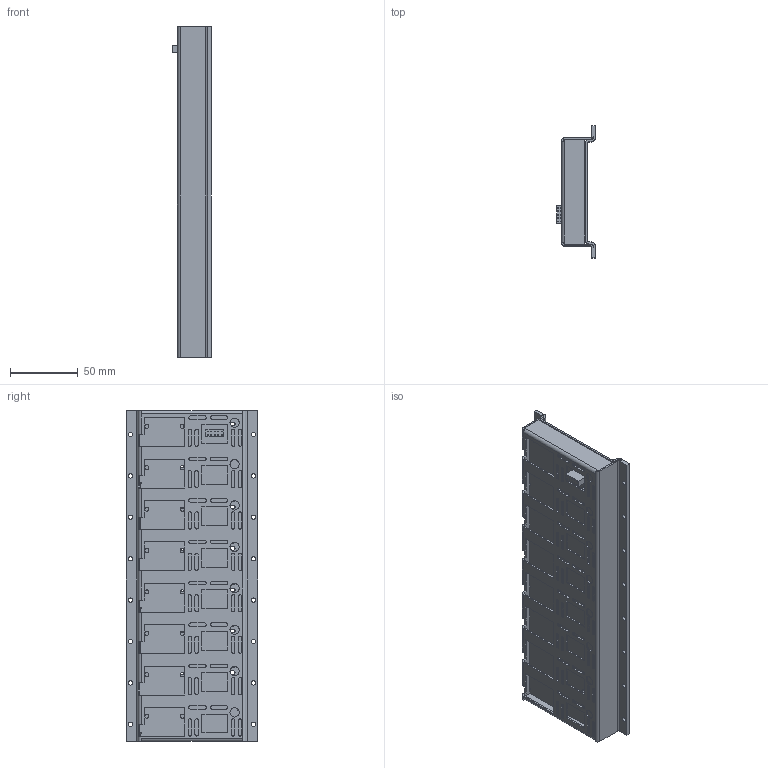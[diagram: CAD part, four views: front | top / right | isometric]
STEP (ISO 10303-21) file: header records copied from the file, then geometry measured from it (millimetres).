
FILE_DESCRIPTION((''),'2;1');
FILE_NAME('CU_SCXI-1357_8-SLOT','2011-08-16T',('jjorden'),(''),'PRO/ENGINEER BY PARAMETRIC TECHNOLOGY CORPORATION, 2010230','PRO/ENGINEER BY PARAMETRIC TECHNOLOGY CORPORATION, 2010230','');
FILE_SCHEMA(('CONFIG_CONTROL_DESIGN'));
Length unit declared in the file: inch
Products named in the file (1): CU_SCXI-1357_8-SLOT
Bounding box: 28.37 x 96.77 x 243.55 mm (x, y, z)
Volume: 92804.4 mm3; surface area: 136915.2 mm2
Topology: 3 solids, 3 shells, 1483 faces, 4219 edges, 2752 vertices
Faces by surface type: plane 755, cylinder 664, bspline 56, sphere 4, torus 4
Entity records: 50689 total; most frequent: CARTESIAN_POINT 10168, ORIENTED_EDGE 8358, DIRECTION 8317, EDGE_CURVE 4179, AXIS2_PLACEMENT_3D 2811, VERTEX_POINT 2790, VECTOR 2695, LINE 2695
